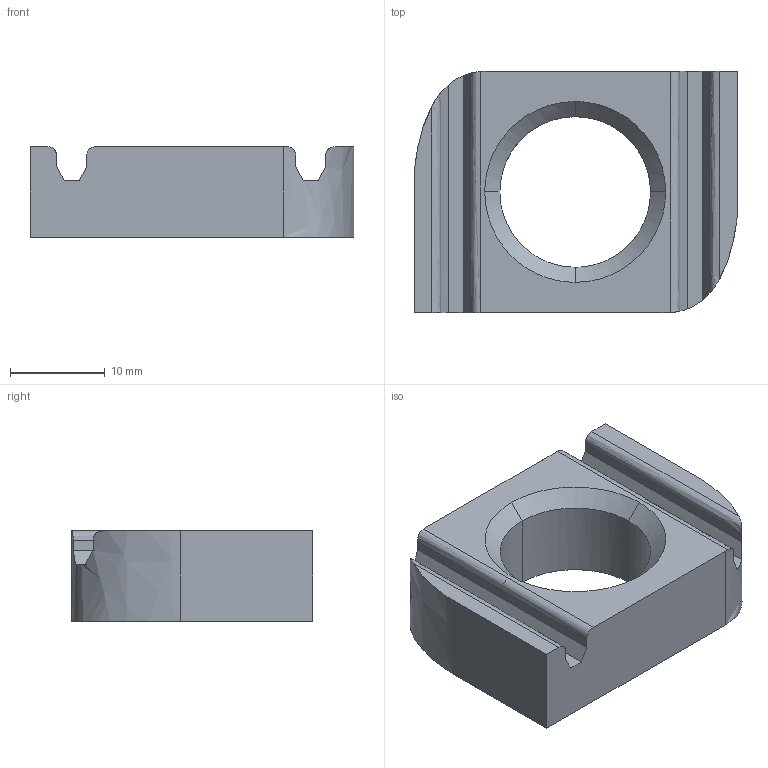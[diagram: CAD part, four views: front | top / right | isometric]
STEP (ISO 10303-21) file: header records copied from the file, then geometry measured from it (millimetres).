
FILE_DESCRIPTION(('TurboCAD Mac Pro'),'Build 980');
FILE_NAME('P4012.stp',' ',(''),(''),'ACIS Interop','IMSI','TurboCAD Mac Pro BY IMSI, INCORPORATED');
FILE_SCHEMA(('automotive_design'));
Length unit declared in the file: inch
Products named in the file (1): 1
Bounding box: 34.13 x 25.4 x 9.53 mm (x, y, z)
Volume: 5454.9 mm3; surface area: 2966.8 mm2
Topology: 1 solids, 1 shells, 36 faces, 98 edges, 64 vertices
Faces by surface type: plane 22, bspline 14
Entity records: 1805 total; most frequent: CARTESIAN_POINT 694, ORIENTED_EDGE 196, DIRECTION 107, EDGE_CURVE 98, VERTEX_POINT 64, LINE 61, VECTOR 61, EDGE_LOOP 38
